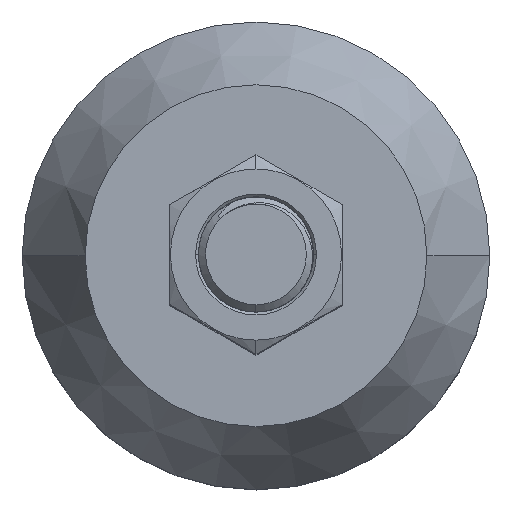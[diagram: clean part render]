
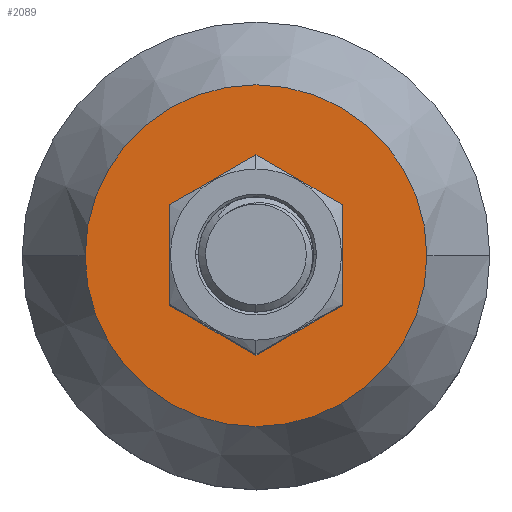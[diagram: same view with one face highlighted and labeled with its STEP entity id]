
A CAD part, top view. The second image highlights one B-rep face of the part: STEP entity #2089.
In plain terms, the highlighted planar face has unit normal (0, 0, 1).
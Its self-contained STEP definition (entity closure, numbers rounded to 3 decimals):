
#585 = FACE_OUTER_BOUND ( 'NONE', #13393, .T. ) ;
#942 = CARTESIAN_POINT ( 'NONE',  ( -23.75, 0., 38. ) ) ;
#1019 = DIRECTION ( 'NONE',  ( -1., 0., 0. ) ) ;
#1330 = CIRCLE ( 'NONE', #2345, 23.75 ) ;
#1386 = ORIENTED_EDGE ( 'NONE', *, *, #1458, .F. ) ;
#1458 = EDGE_CURVE ( 'NONE', #10964, #8850, #8711, .T. ) ;
#1532 = CARTESIAN_POINT ( 'NONE',  ( 23.75, 0., 38. ) ) ;
#2089 = ADVANCED_FACE ( 'NONE', ( #585 ), #10779, .F. ) ;
#2345 = AXIS2_PLACEMENT_3D ( 'NONE', #3954, #11196, #5010 ) ;
#2584 = DIRECTION ( 'NONE',  ( -1., 0., 0. ) ) ;
#3954 = CARTESIAN_POINT ( 'NONE',  ( 0., 0., 38. ) ) ;
#5010 = DIRECTION ( 'NONE',  ( -1., 0., 0. ) ) ;
#7248 = DIRECTION ( 'NONE',  ( 0., 0., -1. ) ) ;
#8165 = ORIENTED_EDGE ( 'NONE', *, *, #10235, .F. ) ;
#8711 = CIRCLE ( 'NONE', #9358, 23.75 ) ;
#8790 = DIRECTION ( 'NONE',  ( 0., 0., -1. ) ) ;
#8850 = VERTEX_POINT ( 'NONE', #942 ) ;
#9358 = AXIS2_PLACEMENT_3D ( 'NONE', #13442, #7248, #1019 ) ;
#10235 = EDGE_CURVE ( 'NONE', #8850, #10964, #1330, .T. ) ;
#10779 = PLANE ( 'NONE',  #13248 ) ;
#10964 = VERTEX_POINT ( 'NONE', #13420 ) ;
#11196 = DIRECTION ( 'NONE',  ( 0., 0., -1. ) ) ;
#13248 = AXIS2_PLACEMENT_3D ( 'NONE', #1532, #8790, #2584 ) ;
#13393 = EDGE_LOOP ( 'NONE', ( #8165, #1386 ) ) ;
#13420 = CARTESIAN_POINT ( 'NONE',  ( 23.75, 0., 38. ) ) ;
#13442 = CARTESIAN_POINT ( 'NONE',  ( 0., 0., 38. ) ) ;
